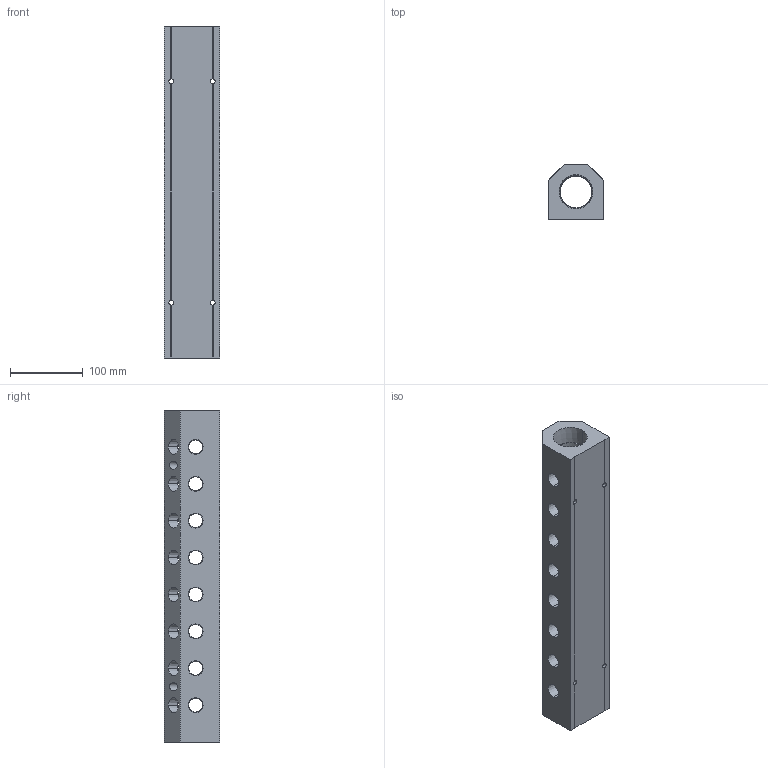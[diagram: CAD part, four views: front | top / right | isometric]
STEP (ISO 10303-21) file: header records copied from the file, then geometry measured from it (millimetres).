
FILE_DESCRIPTION (( 'STEP AP214' ), '1' );
FILE_NAME ('ALM8ABCDE-N8N24-457B.step', '2022-02-07T09:29:25', ( '' ), ( '' ), 'SwSTEP 2.0', 'SolidWorks 2020', '' );
FILE_SCHEMA (( 'AUTOMOTIVE_DESIGN' ));
Length unit declared in the file: millimetre
Products named in the file (1): ALM8ABCDE-N8N24-457B
Bounding box: 76.2 x 76.2 x 457 mm (x, y, z)
Volume: 1491734.6 mm3; surface area: 222404 mm2
Topology: 1 solids, 1 shells, 437 faces, 1294 edges, 860 vertices
Faces by surface type: plane 243, cone 84, bspline 84, cylinder 26
Entity records: 27483 total; most frequent: CARTESIAN_POINT 12388, ORIENTED_EDGE 2588, DIRECTION 1726, EDGE_CURVE 1294, VERTEX_POINT 860, LINE 786, VECTOR 786, EDGE_LOOP 528
